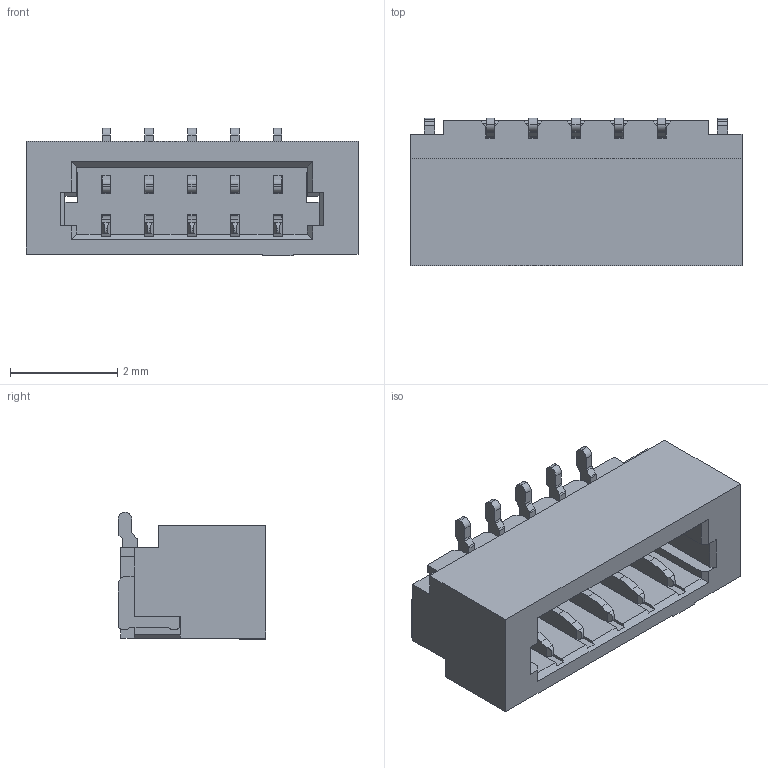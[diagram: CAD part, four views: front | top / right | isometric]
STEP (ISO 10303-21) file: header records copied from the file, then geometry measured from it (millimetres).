
FILE_DESCRIPTION((''),'2;1');
FILE_NAME('SCT0800WVS-05','2023-04-10T16:26:48',('Administrator'),(''),'CREO PARAMETRIC BY PTC INC, 2018050','CREO PARAMETRIC BY PTC INC, 2018050','');
FILE_SCHEMA(('CONFIG_CONTROL_DESIGN'));
Length unit declared in the file: millimetre
Products named in the file (1): SCT0800WVS-05
Bounding box: 6.18 x 2.75 x 2.37 mm (x, y, z)
Volume: 22.4 mm3; surface area: 131.4 mm2
Topology: 1 solids, 2 shells, 484 faces, 1507 edges, 995 vertices
Faces by surface type: plane 318, cylinder 166
Entity records: 16843 total; most frequent: CARTESIAN_POINT 3066, ORIENTED_EDGE 3014, DIRECTION 2763, EDGE_CURVE 1507, VECTOR 1171, LINE 1171, VERTEX_POINT 995, AXIS2_PLACEMENT_3D 796
